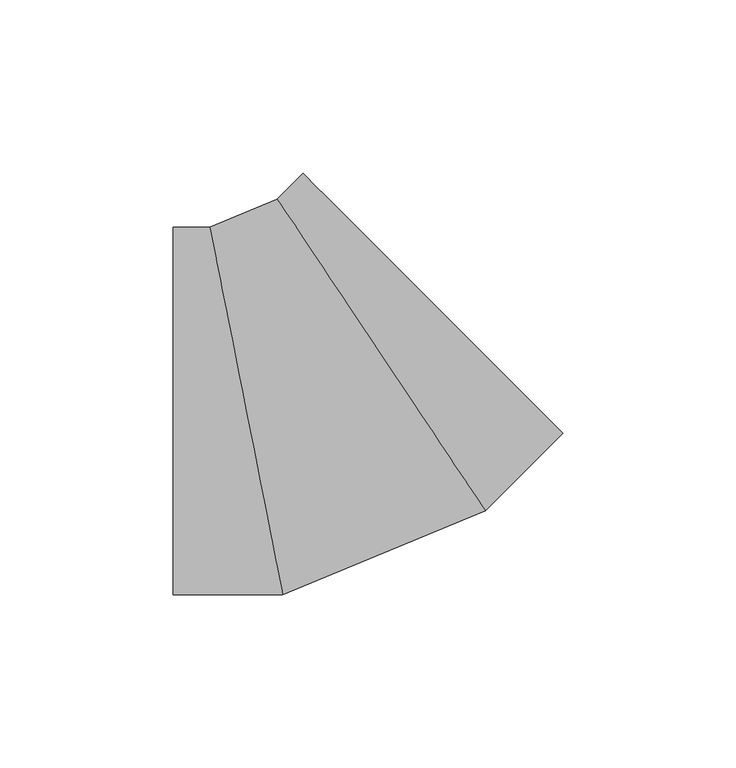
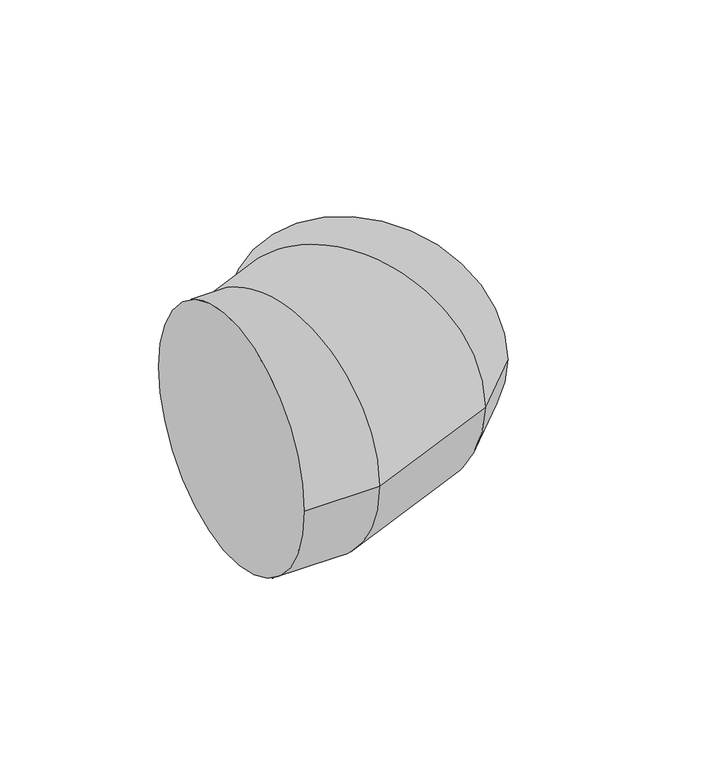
"""IFC4 building model written with IfcOpenShell, lengths in millimetres: duct fitting geometry, 17_Отвод_Заключение : 10_Отвод_3D объект."""

from ifc_helpers import new_model, si_unit, frame, origin, place, context, project, spatial, circle_curve, ellipse_curve, source, transform, mapped, element, save
from ifc_brep_helpers import plane_surface, cylinder_surface, advanced_brep


def duct_fitting_c88ccaa3(model_context):
    return source(origin(), model_context, "Body", "AdvancedBrep", [
        advanced_brep(
        [(-43.9066376, -53.0, 0.0), (-43.9066376, 53.0, 0.0), (-12.2795712, -53.0, 0.0), (-33.3642821, 53.0, 0.0), (46.1596275, -28.7936913, 0.0), (-13.8845493, 61.0687696, 0.0), (68.5233406, -6.4299782, 0.0), (-6.4299782, 68.5233406, 0.0)],
        [
            (0, 1, circle_curve(frame((-43.9066376, 0.0, 0.0), z_axis=(-1.0, 0.0, 0.0), x_axis=(0.0, 1.0, 0.0)), 53.0)),
            (1, 0, circle_curve(frame((-43.9066376, 0.0, 0.0), z_axis=(-1.0, 0.0, 0.0), x_axis=(0.0, 1.0, 0.0)), 53.0)),
            (0, 2),
            (2, 3, ellipse_curve(frame((-22.8219267, 0.0, 0.0), z_axis=(-0.9807852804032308, -0.195090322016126, 0.0), x_axis=(-0.19509032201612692, 0.9807852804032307, 0.0)), 54.0383314, 53.0)),
            (3, 1),
            (3, 2, ellipse_curve(frame((-22.8219267, 0.0, 0.0), z_axis=(-0.9807852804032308, -0.195090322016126, 0.0), x_axis=(-0.19509032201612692, 0.9807852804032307, 0.0)), 54.0383314, 53.0)),
            (2, 4),
            (4, 5, ellipse_curve(frame((16.1375391, 16.1375391, 0.0), z_axis=(-0.8314696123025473, -0.555570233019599, 0.0), x_axis=(-0.5555702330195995, 0.8314696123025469, 0.0)), 54.0383314, 53.0)),
            (5, 3),
            (5, 4, ellipse_curve(frame((16.1375391, 16.1375391, 0.0), z_axis=(-0.8314696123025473, -0.555570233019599, 0.0), x_axis=(-0.5555702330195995, 0.8314696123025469, 0.0)), 54.0383314, 53.0)),
            (4, 6),
            (6, 7, circle_curve(frame((31.0466812, 31.0466812, 0.0), z_axis=(-0.7071067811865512, -0.7071067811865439, 0.0), x_axis=(-0.7071067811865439, 0.7071067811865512, 0.0)), 53.0)),
            (7, 5),
            (7, 6, circle_curve(frame((31.0466812, 31.0466812, 0.0), z_axis=(-0.7071067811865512, -0.7071067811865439, 0.0), x_axis=(-0.7071067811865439, 0.7071067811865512, 0.0)), 53.0)),
        ],
        [
            plane_surface(frame((-43.9066376, 0.0, 0.0), z_axis=(-1.0, 0.0, 0.0), x_axis=(0.0, 0.0, 1.0))),
            cylinder_surface(frame((-43.9066376, 0.0, 0.0), z_axis=(-1.0, 0.0, 0.0), x_axis=(0.0, 1.0, 0.0)), 53.0),
            cylinder_surface(frame((-22.8219267, 0.0, 0.0), z_axis=(-0.9238795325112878, -0.38268343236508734, 0.0), x_axis=(-0.38268343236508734, 0.9238795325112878, 0.0)), 53.0),
            cylinder_surface(frame((16.1375391, 16.1375391, 0.0), z_axis=(-0.7071067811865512, -0.7071067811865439, 0.0), x_axis=(-0.7071067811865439, 0.7071067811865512, 0.0)), 53.0),
            plane_surface(frame((31.0466812, 31.0466812, 0.0), z_axis=(0.707106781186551, 0.707106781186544, 0.0), x_axis=(0.0, 0.0, 1.0))),
        ],
        [
            (0, [[1, 2]]),
            (1, [[-1, 3, 4, 5]]),
            (1, [[-2, -5, 6, -3]]),
            (2, [[-4, 7, 8, 9]]),
            (2, [[-6, -9, 10, -7]]),
            (3, [[-8, 11, 12, 13]]),
            (3, [[-10, -13, 14, -11]]),
            (4, [[-14, -12]]),
        ],
    ),
    ])


if __name__ == "__main__":
    model = new_model("IFC4")
    model_context = context("Model", 3, world=origin())
    ifc_project = project(units=[si_unit("LENGTHUNIT", "METRE", prefix="MILLI")], contexts=[model_context])
    site = spatial("IfcSite", under=ifc_project)
    building = spatial("IfcBuilding", under=site)
    placement = place(None, origin())
    duct_fitting_shape = duct_fitting_c88ccaa3(model_context)
    element("IfcDuctFitting", 1, ObjectType="17_Отвод_Заключение : 10_Отвод_3D объект", at=placement, inside=building, context=model_context, shape_type="MappedRepresentation", body=[
        mapped(duct_fitting_shape, transform((0.0, 0.0, 0.0), x_axis=(1.0, 0.0, 0.0), y_axis=(0.0, 1.0, 0.0), z_axis=(0.0, 0.0, 1.0))),
    ])
    save(model, "model.ifc")
